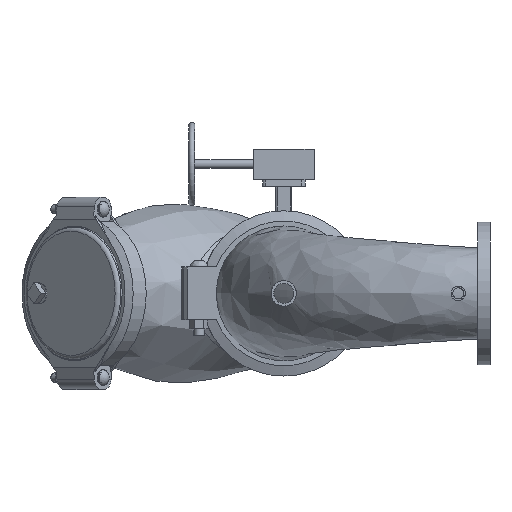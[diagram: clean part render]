
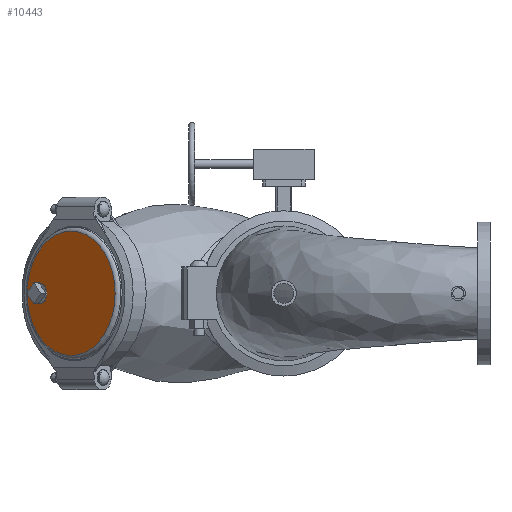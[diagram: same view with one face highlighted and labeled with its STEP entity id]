
A CAD part, front view. The second image highlights one B-rep face of the part: STEP entity #10443.
In plain terms, the highlighted planar face has unit normal (-0.707, -0.707, 0) as drawn and (1, 0, 0) by its records, which use the part's own axes.
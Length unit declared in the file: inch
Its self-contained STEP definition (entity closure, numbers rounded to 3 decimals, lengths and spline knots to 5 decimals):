
#2012=FACE_BOUND('',#2990,.T.);
#2362=FACE_OUTER_BOUND('',#2989,.T.);
#2989=EDGE_LOOP('',(#7716,#7717));
#2990=EDGE_LOOP('',(#7718));
#3608=CIRCLE('',#11556,1.);
#3616=CIRCLE('',#11567,5.8855);
#3617=CIRCLE('',#11568,5.8855);
#4402=VERTEX_POINT('',#21245);
#4410=VERTEX_POINT('',#21266);
#4411=VERTEX_POINT('',#21267);
#5599=EDGE_CURVE('',#4402,#4402,#3608,.T.);
#5608=EDGE_CURVE('',#4410,#4411,#3616,.T.);
#5609=EDGE_CURVE('',#4411,#4410,#3617,.T.);
#7716=ORIENTED_EDGE('',*,*,#5608,.T.);
#7717=ORIENTED_EDGE('',*,*,#5609,.T.);
#7718=ORIENTED_EDGE('',*,*,#5599,.T.);
#9409=PLANE('',#11570);
#10443=ADVANCED_FACE('',(#2362,#2012),#9409,.T.);
#11556=AXIS2_PLACEMENT_3D('',#21247,#13604,#13605);
#11567=AXIS2_PLACEMENT_3D('',#21268,#13627,#13628);
#11568=AXIS2_PLACEMENT_3D('',#21269,#13629,#13630);
#11570=AXIS2_PLACEMENT_3D('',#21271,#13633,#13634);
#13604=DIRECTION('center_axis',(-1.,0.,0.));
#13605=DIRECTION('ref_axis',(0.,0.,1.));
#13627=DIRECTION('center_axis',(1.,0.,0.));
#13628=DIRECTION('ref_axis',(0.,0.,-1.));
#13629=DIRECTION('center_axis',(1.,0.,0.));
#13630=DIRECTION('ref_axis',(0.,0.,-1.));
#13633=DIRECTION('center_axis',(1.,0.,0.));
#13634=DIRECTION('ref_axis',(0.,0.,-1.));
#21245=CARTESIAN_POINT('',(1.68,4.25,-1.));
#21247=CARTESIAN_POINT('Origin',(1.68,4.25,0.));
#21266=CARTESIAN_POINT('',(1.68,5.8855,0.));
#21267=CARTESIAN_POINT('',(1.68,0.,5.8855));
#21268=CARTESIAN_POINT('Origin',(1.68,0.,0.));
#21269=CARTESIAN_POINT('Origin',(1.68,0.,0.));
#21271=CARTESIAN_POINT('Origin',(1.68,0.,0.));
